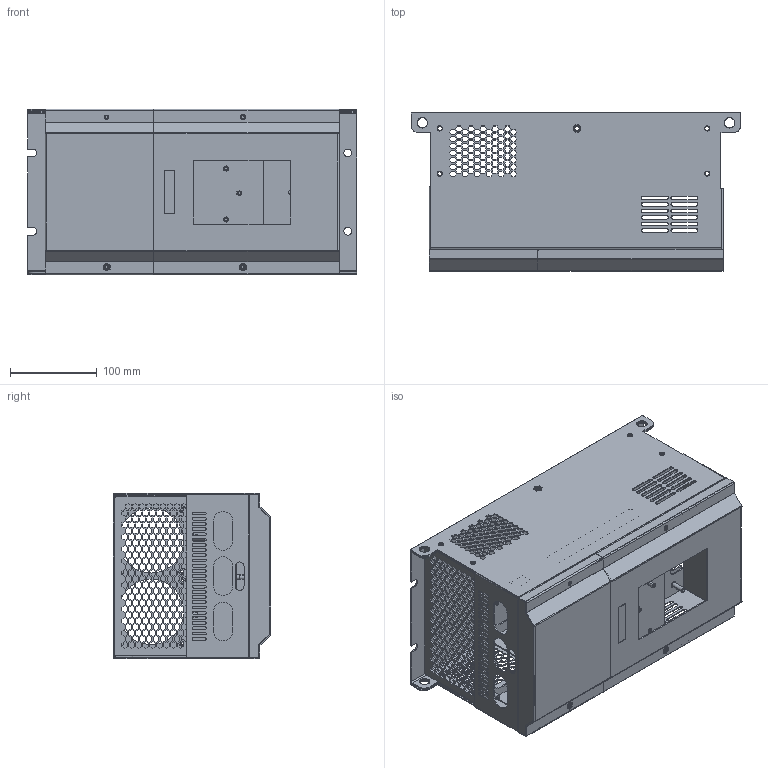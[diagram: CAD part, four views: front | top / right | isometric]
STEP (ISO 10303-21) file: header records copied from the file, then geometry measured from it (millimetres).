
FILE_DESCRIPTION((''),'2;1');
FILE_NAME('2999910066_ASM','2024-07-10T09:35:47',('dylvxj'),(''),'CREO PARAMETRIC BY PTC INC, 2020044','CREO PARAMETRIC BY PTC INC, 2020044','');
FILE_SCHEMA(('CONFIG_CONTROL_DESIGN','SHAPE_APPEARANCE_LAYERS_GROUPS'));
Products named in the file (32): 8ZTD-024-950; S-M5-2; 8ZTD-024-950_ASM; 5ZTD_062_127; SOO-M4-17D5-ZT; SOOS-M3-9-ZI; 5ZTD-062-127_ASM; 5ZTD_022_461_ASM; 8ZTD_355_029; S_M4_2; 8ZTD_355_029_ASM; 5040V1643; 5040V1643_ASM; 8ZTD-043-722; 8ZTD-043-722_ASM; 8ZTD_043_723; 8ZTD_043_723_ASM; 6JDLM; 5ZTD_355_052_ASM; 8ZTD_048_063; SOOS-M3-8-ZI_13; SOOS-M3-12D5-ZI_13; 5048V1626_ASM; 8ZTD-325-209; 8ZTD_325_209_ASM; 8ZTD_312_081; 8ZTD_130_079; JDLM; 5ZTD_312_011_ASM; 8ZTD_315_1733; 8ZTD_315_1733_ASM; 2999910066_ASM
Assembly tree (74 placements, depth 4):
  2999910066_ASM
    5ZTD_022_461_ASM
      8ZTD-024-950_ASM
        8ZTD-024-950
        S-M5-2  x6
      5ZTD-062-127_ASM
        5ZTD_062_127
        SOO-M4-17D5-ZT  x4
        SOOS-M3-9-ZI  x4
    5ZTD_355_052_ASM
      8ZTD_355_029
      8ZTD_355_029_ASM
        8ZTD_355_029
        S_M4_2  x4
      5040V1643_ASM
        5040V1643
        S_M4_2  x2
      8ZTD-043-722_ASM
        8ZTD-043-722
        S_M4_2  x2
      8ZTD_043_723_ASM  x2
        8ZTD_043_723
        S_M4_2
      6JDLM  x2
    5048V1626_ASM
      8ZTD_048_063
      SOOS-M3-8-ZI_13  x4
      SOOS-M3-12D5-ZI_13  x6
    8ZTD_325_209_ASM
      8ZTD-325-209
      S_M4_2  x8
      S-M5-2  x4
    5ZTD_312_011_ASM
      8ZTD_312_081
      8ZTD_130_079
      JDLM
    8ZTD_315_1733_ASM
      8ZTD_315_1733
      JDLM
Bounding box: 378.3 x 181.49 x 190.31 mm (x, y, z)
Volume: 785804 mm3; surface area: 1213250.1 mm2
Topology: 63 solids, 81 shells, 8881 faces, 25151 edges, 16634 vertices
Faces by surface type: plane 7975, cylinder 906
Entity records: 135879 total; most frequent: CARTESIAN_POINT 20747, ORIENTED_EDGE 20506, DIRECTION 18707, EDGE_CURVE 10255, VECTOR 9327, LINE 9327, VERTEX_POINT 6730, PRESENTATION_STYLE_ASSIGNMENT 5745
